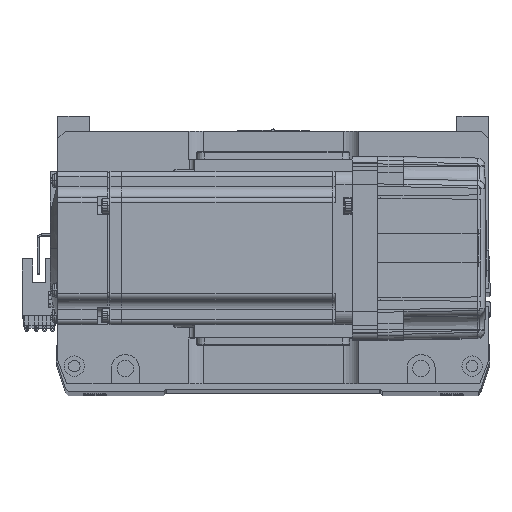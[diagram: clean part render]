
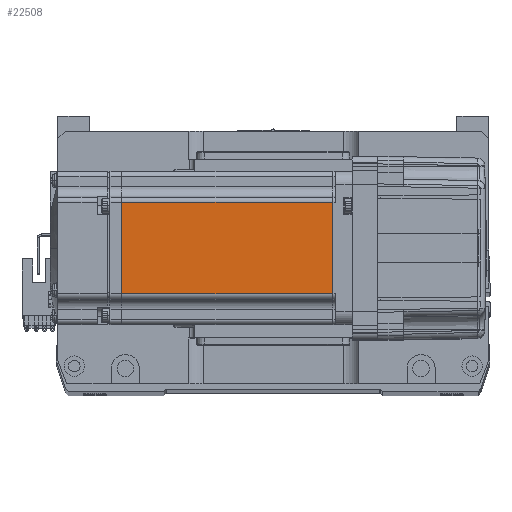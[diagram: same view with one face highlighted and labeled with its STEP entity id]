
A CAD part, top view. The second image highlights one B-rep face of the part: STEP entity #22508.
In plain terms, the highlighted planar face has unit normal (0, 0, 1).
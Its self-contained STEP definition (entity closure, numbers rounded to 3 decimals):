
#777 = VECTOR ( 'NONE', #52827, 1000. ) ;
#1554 = DIRECTION ( 'NONE',  ( 0., 0., 1. ) ) ;
#2074 = VECTOR ( 'NONE', #54980, 1000. ) ;
#4401 = CARTESIAN_POINT ( 'NONE',  ( -90.45, 0., 30. ) ) ;
#5941 = VERTEX_POINT ( 'NONE', #46409 ) ;
#7055 = FACE_OUTER_BOUND ( 'NONE', #41345, .T. ) ;
#10773 = ORIENTED_EDGE ( 'NONE', *, *, #43503, .F. ) ;
#11910 = CARTESIAN_POINT ( 'NONE',  ( -7.75, 0., 30. ) ) ;
#12836 = CARTESIAN_POINT ( 'NONE',  ( -90.45, -18., 30. ) ) ;
#14566 = LINE ( 'NONE', #59302, #43400 ) ;
#15451 = ORIENTED_EDGE ( 'NONE', *, *, #27105, .T. ) ;
#15655 = CARTESIAN_POINT ( 'NONE',  ( -6.5, -25., 30. ) ) ;
#16737 = VERTEX_POINT ( 'NONE', #29393 ) ;
#19318 = ORIENTED_EDGE ( 'NONE', *, *, #41875, .T. ) ;
#21198 = CARTESIAN_POINT ( 'NONE',  ( -6.5, -18., 30. ) ) ;
#22306 = VECTOR ( 'NONE', #50530, 1000. ) ;
#22508 = ADVANCED_FACE ( 'NONE', ( #7055 ), #30659, .T. ) ;
#27105 = EDGE_CURVE ( 'NONE', #56227, #44521, #27416, .T. ) ;
#27416 = LINE ( 'NONE', #4401, #777 ) ;
#29393 = CARTESIAN_POINT ( 'NONE',  ( -7.75, -18., 30. ) ) ;
#30185 = DIRECTION ( 'NONE',  ( -1., 0., 0. ) ) ;
#30659 = PLANE ( 'NONE',  #57757 ) ;
#40102 = DIRECTION ( 'NONE',  ( 1., 0., 0. ) ) ;
#41345 = EDGE_LOOP ( 'NONE', ( #10773, #19318, #15451, #53345 ) ) ;
#41875 = EDGE_CURVE ( 'NONE', #5941, #56227, #14566, .T. ) ;
#43400 = VECTOR ( 'NONE', #30185, 1000. ) ;
#43503 = EDGE_CURVE ( 'NONE', #5941, #16737, #53005, .T. ) ;
#44521 = VERTEX_POINT ( 'NONE', #12836 ) ;
#46409 = CARTESIAN_POINT ( 'NONE',  ( -7.75, 18., 30. ) ) ;
#49703 = LINE ( 'NONE', #21198, #22306 ) ;
#50530 = DIRECTION ( 'NONE',  ( -1., 0., 0. ) ) ;
#52827 = DIRECTION ( 'NONE',  ( 0., -1., 0. ) ) ;
#53005 = LINE ( 'NONE', #11910, #2074 ) ;
#53260 = CARTESIAN_POINT ( 'NONE',  ( -90.45, 18., 30. ) ) ;
#53345 = ORIENTED_EDGE ( 'NONE', *, *, #55815, .F. ) ;
#54980 = DIRECTION ( 'NONE',  ( 0., -1., 0. ) ) ;
#55815 = EDGE_CURVE ( 'NONE', #16737, #44521, #49703, .T. ) ;
#56227 = VERTEX_POINT ( 'NONE', #53260 ) ;
#57757 = AXIS2_PLACEMENT_3D ( 'NONE', #15655, #1554, #40102 ) ;
#59302 = CARTESIAN_POINT ( 'NONE',  ( -6.5, 18., 30. ) ) ;
